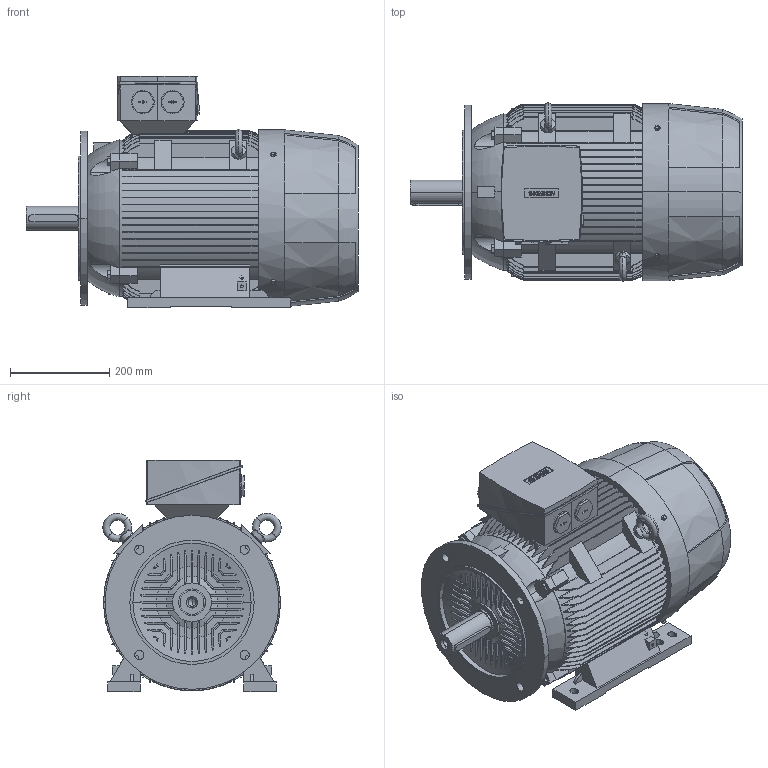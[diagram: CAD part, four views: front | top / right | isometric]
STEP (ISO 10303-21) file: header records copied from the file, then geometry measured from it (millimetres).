
FILE_DESCRIPTION(('STEP AP214'),'1');
FILE_NAME('cctmp_C7D0E8AB-9455-479B-8460-DF4723F7C693_2021_11_11_12_7_12_519..stp','2021-11-11T11:07:13',('SIEMENS A&D'),('CADClick - www.CADClick.com'),'Spatial InterOp 3D',' ','unknown authorization');
FILE_SCHEMA(('AUTOMOTIVE_DESIGN'));
Length unit declared in the file: millimetre
Products named in the file (1): 2021_11_11__12-07-12-488
Bounding box: 668 x 358.44 x 466 mm (x, y, z)
Volume: 50886716.7 mm3; surface area: 1844926.3 mm2
Topology: 1 solids, 1 shells, 1389 faces, 3891 edges, 2560 vertices
Faces by surface type: plane 873, cylinder 336, torus 150, cone 30
Entity records: 64630 total; most frequent: CARTESIAN_POINT 18114, ORIENTED_EDGE 7762, DIRECTION 7097, EDGE_CURVE 3881, VERTEX_POINT 2560, AXIS2_PLACEMENT_3D 2486, LINE 2125, VECTOR 2125
